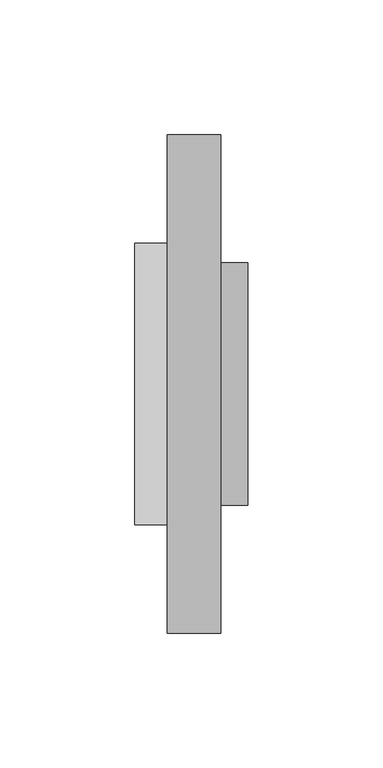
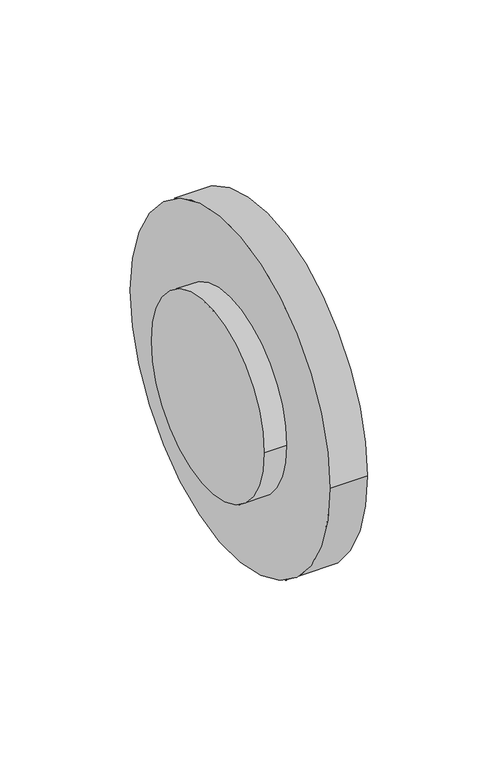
"""IFC4 building model written with IfcOpenShell, lengths in millimetres: pipe fitting geometry, NIRON RED termofusion casquillo con brida : Estándar."""

from ifc_helpers import new_model, si_unit, point, frame, origin, origin_2d, place, context, project, spatial, circle_curve, trimmed, segment, composite_curve, outline, extrude, source, transform, mapped, element, save


def pipe_fitting_6edd62ef(model_context):
    return source(origin(), model_context, "Body", "SweptSolid", [
        extrude(outline(composite_curve([segment(trimmed(circle_curve(origin_2d(), 45.0), [point((45.0, 0.0))], [point((-45.0, 0.0))], False, "CARTESIAN"), True, "CONTINUOUS"), segment(trimmed(circle_curve(origin_2d(), 45.0), [point((-45.0, 0.0))], [point((45.0, 0.0))], False, "CARTESIAN"), True, "CONTINUOUS")], self_intersect=False)), frame((12.0, 0.0, 0.0), z_axis=(1.0, 0.0, 0.0), x_axis=(0.0, 1.0, 0.0)), (0.0, 0.0, 1.0), 30.0),
        extrude(outline(composite_curve([segment(trimmed(circle_curve(origin_2d(), 52.25), [point((-52.25, 0.0))], [point((52.25, 0.0))], False, "CARTESIAN"), True, "CONTINUOUS"), segment(trimmed(circle_curve(origin_2d(), 52.25), [point((52.25, 0.0))], [point((-52.25, 0.0))], False, "CARTESIAN"), True, "CONTINUOUS")], self_intersect=False)), frame((0.0, 0.0, 0.0), z_axis=(1.0, 0.0, 0.0), x_axis=(0.0, 1.0, 0.0)), (0.0, 0.0, 1.0), 12.0),
        extrude(outline(composite_curve([segment(trimmed(circle_curve(origin_2d(), 92.5), [point((92.5, 0.0))], [point((-92.5, 0.0))], False, "CARTESIAN"), True, "CONTINUOUS"), segment(trimmed(circle_curve(origin_2d(), 92.5), [point((-92.5, 0.0))], [point((92.5, 0.0))], False, "CARTESIAN"), True, "CONTINUOUS")], self_intersect=False), holes=[composite_curve([segment(trimmed(circle_curve(origin_2d(), 46.0), [point((46.0, 0.0))], [point((-46.0, 0.0))], True, "CARTESIAN"), True, "CONTINUOUS"), segment(trimmed(circle_curve(origin_2d(), 46.0), [point((-46.0, 0.0))], [point((46.0, 0.0))], True, "CARTESIAN"), True, "CONTINUOUS")], self_intersect=False)]), frame((12.0, 0.0, 0.0), z_axis=(1.0, 0.0, 0.0), x_axis=(0.0, 1.0, 0.0)), (0.0, 0.0, 1.0), 20.0),
    ])


if __name__ == "__main__":
    model = new_model("IFC4")
    model_context = context("Model", 3, world=origin())
    ifc_project = project(units=[si_unit("LENGTHUNIT", "METRE", prefix="MILLI")], contexts=[model_context])
    site = spatial("IfcSite", under=ifc_project)
    building = spatial("IfcBuilding", under=site)
    placement = place(None, origin())
    pipe_fitting_shape = pipe_fitting_6edd62ef(model_context)
    element("IfcPipeFitting", 1, ObjectType="NIRON RED termofusion casquillo con brida : Estándar", at=placement, inside=building, context=model_context, shape_type="MappedRepresentation", body=[
        mapped(pipe_fitting_shape, transform((0.0, 0.0, 0.0), x_axis=(1.0, 0.0, 0.0), y_axis=(0.0, 1.0, 0.0), z_axis=(0.0, 0.0, 1.0))),
    ])
    save(model, "model.ifc")
